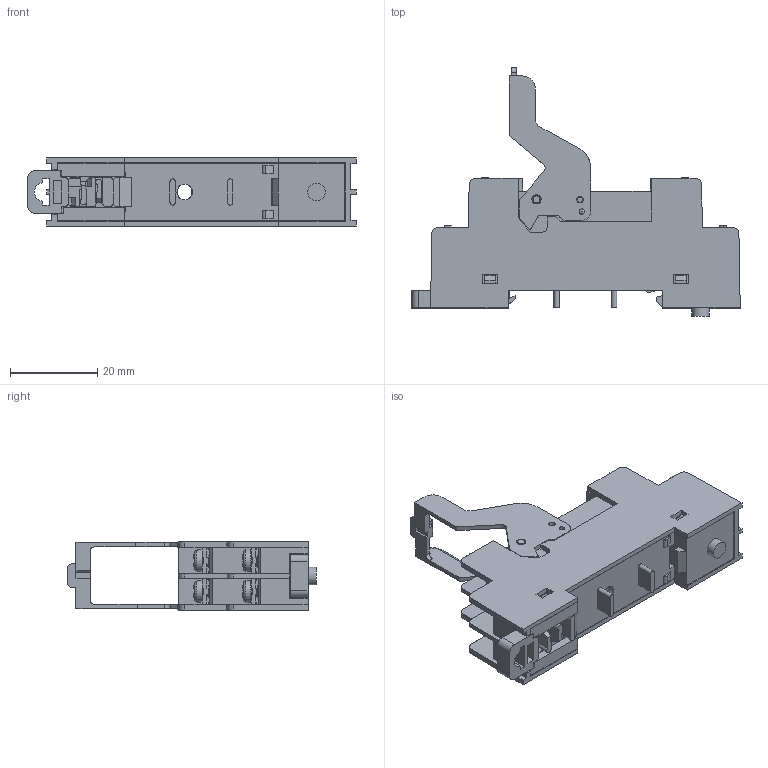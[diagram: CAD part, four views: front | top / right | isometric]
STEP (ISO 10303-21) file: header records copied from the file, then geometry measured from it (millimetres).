
FILE_DESCRIPTION(/* description */ (''),/* implementation_level */ '2;1');
FILE_NAME(/* name */ 'HT2S-05BA_ZP.stp',/* time_stamp */ '2019-03-18T14:45:46+08:00',/* author */ (''),/* organization */ (''),/* preprocessor_version */ 'ST-DEVELOPER v16.7',/* originating_system */ 'SIEMENS PLM Software NX 12.0',/* authorisation */ '');
FILE_SCHEMA (('AUTOMOTIVE_DESIGN { 1 0 10303 214 3 1 1 1 }'));
Products named in the file (15): HT2S-05BWK; HT7.730.127; HT7.730.126; HT7.730.125; HT7.730.124; HT7.730.123; HT7.730.122; HT7.730.121; HT7.730.120; gg; HT7.814.005; HT8.205.003; HT7.730.128; HT7.730.129; HT2S-05BA_ZP
Assembly tree (20 placements, depth 2):
  HT2S-05BA_ZP
    HT7.730.129  x4
    HT7.730.128  x4
    HT8.205.003
    HT7.814.005
    gg
    HT7.730.120
    HT7.730.121
    HT7.730.122
    HT7.730.123
    HT7.730.124
    HT7.730.125
    HT7.730.126
    HT7.730.127
    HT2S-05BWK
Bounding box: 75.3 x 57 x 15.6 mm (x, y, z)
Volume: 14225.6 mm3; surface area: 28272.1 mm2
Topology: 28 solids, 28 shells, 3110 faces, 8556 edges, 5457 vertices
Faces by surface type: plane 2041, cylinder 686, bspline 162, extrusion 149, cone 30, torus 26, sphere 16
Full cylindrical faces by diameter (mm): 1.2 x6, 1.4 x2, 2 x2, 2.12 x2, 2.3 x4, 2.5 x76, 3 x8, 3.4 x8, 3.5 x1, 3.6 x1, 4 x1, 4.898 x8, 5.7 x1, 6.5 x1
Entity records: 108333 total; most frequent: CARTESIAN_POINT 39658, ORIENTED_EDGE 14482, DIRECTION 12755, EDGE_CURVE 7241, VECTOR 5341, LINE 5222, VERTEX_POINT 4711, AXIS2_PLACEMENT_3D 3707
